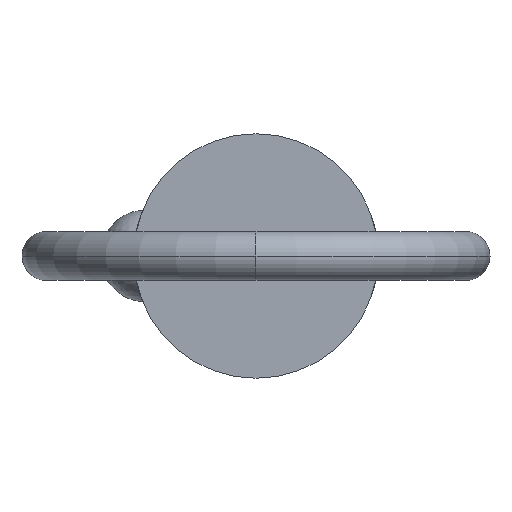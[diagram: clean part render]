
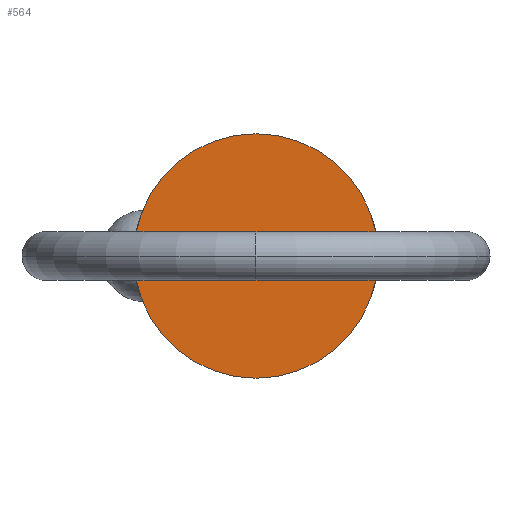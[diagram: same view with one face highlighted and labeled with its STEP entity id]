
A CAD part, left-side view. The second image highlights one B-rep face of the part: STEP entity #564.
In plain terms, the highlighted planar face has unit normal (-1, 0, 0).
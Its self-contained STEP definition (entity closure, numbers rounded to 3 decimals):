
#10 = DIRECTION ( 'NONE',  ( 0., 0., -1. ) ) ;
#38 = CARTESIAN_POINT ( 'NONE',  ( 0., 0., 0. ) ) ;
#93 = CARTESIAN_POINT ( 'NONE',  ( 0., 0., 11.115 ) ) ;
#120 = CIRCLE ( 'NONE', #268, 11.115 ) ;
#200 = DIRECTION ( 'NONE',  ( 0., 0., 1. ) ) ;
#205 = VERTEX_POINT ( 'NONE', #93 ) ;
#245 = EDGE_CURVE ( 'NONE', #913, #205, #120, .T. ) ;
#263 = PLANE ( 'NONE',  #350 ) ;
#268 = AXIS2_PLACEMENT_3D ( 'NONE', #38, #313, #504 ) ;
#282 = CARTESIAN_POINT ( 'NONE',  ( 0., 0., 0. ) ) ;
#313 = DIRECTION ( 'NONE',  ( 1., 0., 0. ) ) ;
#350 = AXIS2_PLACEMENT_3D ( 'NONE', #554, #836, #200 ) ;
#481 = ORIENTED_EDGE ( 'NONE', *, *, #245, .F. ) ;
#504 = DIRECTION ( 'NONE',  ( 0., 0., -1. ) ) ;
#554 = CARTESIAN_POINT ( 'NONE',  ( 0., 0., 0. ) ) ;
#564 = ADVANCED_FACE ( 'NONE', ( #621 ), #263, .T. ) ;
#571 = DIRECTION ( 'NONE',  ( 1., 0., 0. ) ) ;
#581 = CIRCLE ( 'NONE', #787, 11.115 ) ;
#620 = EDGE_LOOP ( 'NONE', ( #481, #693 ) ) ;
#621 = FACE_OUTER_BOUND ( 'NONE', #620, .T. ) ;
#693 = ORIENTED_EDGE ( 'NONE', *, *, #772, .F. ) ;
#772 = EDGE_CURVE ( 'NONE', #205, #913, #581, .T. ) ;
#787 = AXIS2_PLACEMENT_3D ( 'NONE', #282, #571, #10 ) ;
#836 = DIRECTION ( 'NONE',  ( -1., 0., 0. ) ) ;
#884 = CARTESIAN_POINT ( 'NONE',  ( 0., 0., -11.115 ) ) ;
#913 = VERTEX_POINT ( 'NONE', #884 ) ;
